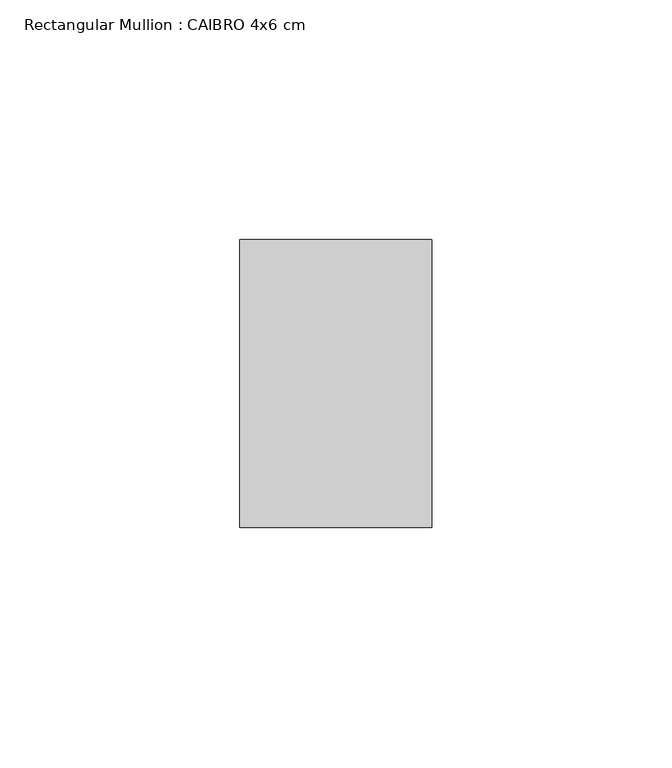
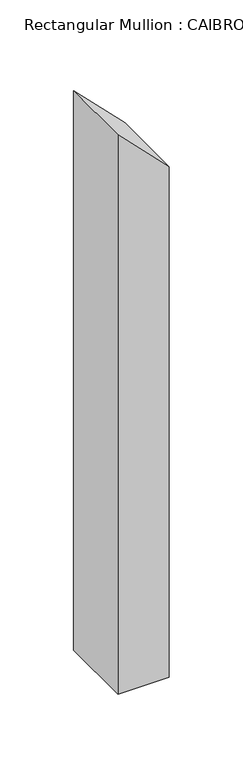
"""IFC4 building model written with IfcOpenShell, lengths in millimetres: member geometry, Rectangular Mullion : CAIBRO 4x6 cm."""

import ifcopenshell
import ifcopenshell.guid

model = None  # the IFC model being written
_history = None  # IfcOwnerHistory: only IFC2X3 demands one
_inside = {}  # id of a spatial element -> (the spatial element, [elements in it])
_under = {}  # id of a project, library or spatial element -> (it, [spatial elements below it])
_declared = {}  # id of a project -> (the project, [libraries it declares])
_typed = {}  # id of a type object -> (the type object, [elements of that type])
_made_of = {}  # id of a material, layer set ... -> (it, [elements and type objects made of it])


def new_model(schema):
    """Start an empty IFC model of exactly this schema.

    Asked for "IFC4X3", IfcOpenShell would pick the latest addendum, in which some entities
    have other attributes; the version numbers below select the first issue.
    IFC2X3 requires an IfcOwnerHistory on every rooted entity: one is made here for all.
    """
    global model, _history
    if schema == "IFC4X3":
        model = ifcopenshell.file(schema_version=(4, 3, 0, 0))
    else:
        model = ifcopenshell.file(schema=schema)
    _inside.clear()
    _under.clear()
    _declared.clear()
    _typed.clear()
    _made_of.clear()
    _history = None
    if model.schema == "IFC2X3":
        org = make("IfcOrganization", Name="unknown")
        user = make(
            "IfcPersonAndOrganization",
            ThePerson=make("IfcPerson", FamilyName="unknown"),
            TheOrganization=org,
        )
        app = make(
            "IfcApplication",
            ApplicationDeveloper=org,
            Version="unknown",
            ApplicationFullName="unknown",
            ApplicationIdentifier="unknown",
        )
        _history = make(
            "IfcOwnerHistory",
            OwningUser=user,
            OwningApplication=app,
            ChangeAction="ADDED",
            CreationDate=0,
        )
    return model


def make(cls, **values):
    """One entity of the class cls with the attributes given. An attribute that is None is left unset."""
    return model.create_entity(
        cls, **{name: value for name, value in values.items() if value is not None}
    )


def rooted(cls, **values):
    """An entity with a GlobalId (a new one), such as an element, a storey or a relation."""
    return make(cls, GlobalId=ifcopenshell.guid.new(), OwnerHistory=_history, **values)


def si_unit(unit_type, name, prefix=None):
    """IfcSIUnit, for example si_unit("LENGTHUNIT", "METRE", prefix="MILLI")."""
    return make("IfcSIUnit", UnitType=unit_type, Prefix=prefix, Name=name)


def assignment(units):
    """IfcUnitAssignment: the units of a project."""
    return None if units is None else make("IfcUnitAssignment", Units=units)


def point(xyz):
    """IfcCartesianPoint."""
    return None if xyz is None else make("IfcCartesianPoint", Coordinates=xyz)


def direction(xyz):
    """IfcDirection."""
    return None if xyz is None else make("IfcDirection", DirectionRatios=xyz)


def frame(location, z_axis=None, x_axis=None):
    """IfcAxis2Placement3D, a coordinate frame: its origin and axes. An axis left out is left unset."""
    return make(
        "IfcAxis2Placement3D",
        Location=point(location),
        Axis=direction(z_axis),
        RefDirection=direction(x_axis),
    )


def origin():
    """The frame at (0, 0, 0) with its axes left unset."""
    return frame((0.0, 0.0, 0.0))


def place(relative_to, where):
    """IfcLocalPlacement: puts the frame where relative to a parent placement (None: the world)."""
    return make(
        "IfcLocalPlacement", PlacementRelTo=relative_to, RelativePlacement=where
    )


def context(
    kind, dimensions, precision=None, world=None, true_north=None, identifier=None
):
    """IfcGeometricRepresentationContext, for example the 3D "Model" context."""
    return make(
        "IfcGeometricRepresentationContext",
        ContextIdentifier=identifier,
        ContextType=kind,
        CoordinateSpaceDimension=dimensions,
        Precision=precision,
        WorldCoordinateSystem=world,
        TrueNorth=true_north,
    )


def project(units=None, contexts=None):
    """IfcProject with its units and contexts."""
    return rooted(
        "IfcProject",
        Name="project",
        RepresentationContexts=contexts,
        UnitsInContext=assignment(units),
    )


def spatial(cls, under=None, at=None, **own):
    """A site, building, storey or space (cls), placed at a placement, below another one or the project."""
    s = rooted(cls, ObjectPlacement=at, **own)
    if under is not None:
        _under.setdefault(under.id(), (under, []))[1].append(s)
    return s


def polyline(points):
    """IfcPolyline through the points."""
    return make("IfcPolyline", Points=[point(p) for p in points])


def outline(outer, holes=None, kind="AREA"):
    """IfcArbitraryClosedProfileDef: a profile drawn as a closed curve; with holes, ...WithVoids."""
    if holes is None:
        return make("IfcArbitraryClosedProfileDef", ProfileType=kind, OuterCurve=outer)
    return make(
        "IfcArbitraryProfileDefWithVoids",
        ProfileType=kind,
        OuterCurve=outer,
        InnerCurves=holes,
    )


def extrude(swept, where, along, depth):
    """IfcExtrudedAreaSolid: the profile swept, set in the frame where, extruded along a direction by depth."""
    return make(
        "IfcExtrudedAreaSolid",
        SweptArea=swept,
        Position=where,
        ExtrudedDirection=direction(along),
        Depth=depth,
    )


def shape(context_of_items, identifier, shape_type, items):
    """IfcShapeRepresentation: the items that make up one representation, for example the "Body"."""
    return make(
        "IfcShapeRepresentation",
        ContextOfItems=context_of_items,
        RepresentationIdentifier=identifier,
        RepresentationType=shape_type,
        Items=items,
    )


def source(mapping_origin, context_of_items, identifier, shape_type, items):
    """IfcRepresentationMap: a shape defined once, which mapped items show again and again."""
    return make(
        "IfcRepresentationMap",
        MappingOrigin=mapping_origin,
        MappedRepresentation=shape(context_of_items, identifier, shape_type, items),
    )


def transform(
    local_origin,
    x_axis=None,
    y_axis=None,
    z_axis=None,
    scale=None,
    scale2=None,
    scale3=None,
    uniform=True,
):
    """IfcCartesianTransformationOperator3D, or its non-uniform kind. x_axis, y_axis, z_axis: its Axis1, 2, 3."""
    if uniform:
        return make(
            "IfcCartesianTransformationOperator3D",
            Axis1=direction(x_axis),
            Axis2=direction(y_axis),
            LocalOrigin=point(local_origin),
            Scale=scale,
            Axis3=direction(z_axis),
        )
    return make(
        "IfcCartesianTransformationOperator3DnonUniform",
        Axis1=direction(x_axis),
        Axis2=direction(y_axis),
        LocalOrigin=point(local_origin),
        Scale=scale,
        Axis3=direction(z_axis),
        Scale2=scale2,
        Scale3=scale3,
    )


def mapped(mapping_source, mapping_target):
    """IfcMappedItem: shows the shape of a source again, moved by a transform."""
    return make(
        "IfcMappedItem", MappingSource=mapping_source, MappingTarget=mapping_target
    )


def made_of(thing, what):
    """Note that an element or type object is made of a material, layer set ...; save() writes the relation."""
    if what is not None:
        _made_of.setdefault(what.id(), (what, []))[1].append(thing)
    return thing


def element(
    cls,
    number,
    at=None,
    inside=None,
    cuts=None,
    type_object=None,
    material=None,
    context=None,
    identifier="Body",
    shape_type=None,
    held_by="IfcProductDefinitionShape",
    body=None,
    shapes=None,
    **own,
):
    """One element of the class cls, such as IfcWall. Its Tag is "e" and its number.

    at: its placement. inside: the storey or other place that contains it. cuts: it is an
    opening in that element (IfcRelVoidsElement). A single representation is given by context,
    identifier, shape_type and body (its items); several are given by shapes. held_by: the class
    of the entity that holds the representations. save() writes the other relations.
    """
    e = rooted(cls, Tag="e%d" % number, ObjectPlacement=at, **own)
    if body is not None:
        shapes = [shape(context, identifier, shape_type, body)]
    if shapes is not None:
        e.Representation = make(held_by, Representations=shapes)
    if inside is not None:
        _inside.setdefault(inside.id(), (inside, []))[1].append(e)
    if cuts is not None:
        rooted(
            "IfcRelVoidsElement", RelatingBuildingElement=cuts, RelatedOpeningElement=e
        )
    if type_object is not None:
        _typed.setdefault(type_object.id(), (type_object, []))[1].append(e)
    return made_of(e, material)


def aggregate(whole, parts):
    """IfcRelAggregates: a whole, such as a stair, and the parts it consists of."""
    return rooted("IfcRelAggregates", RelatingObject=whole, RelatedObjects=parts)


def save(model, path):
    """Write the relations noted so far, then the file.

    IfcRelAggregates (storeys below a building ...), IfcRelContainedInSpatialStructure (elements
    in a storey), IfcRelDefinesByType, IfcRelAssociatesMaterial and IfcRelDeclares: one each for
    every whole, place, type object, material and project.
    """
    for whole, parts in _under.values():
        aggregate(whole, parts)
    for where, things in _inside.values():
        rooted(
            "IfcRelContainedInSpatialStructure",
            RelatedElements=things,
            RelatingStructure=where,
        )
    for kind, things in _typed.values():
        rooted("IfcRelDefinesByType", RelatedObjects=things, RelatingType=kind)
    for what, things in _made_of.values():
        rooted("IfcRelAssociatesMaterial", RelatedObjects=things, RelatingMaterial=what)
    for by, libraries in _declared.values():
        rooted("IfcRelDeclares", RelatingContext=by, RelatedDefinitions=libraries)
    model.write(path)


def rectangular_mullion_caibro_4x6_cm_3dae7f36(model_context):
    return source(origin(), model_context, "Body", "SweptSolid", [
        extrude(outline(polyline([(-77.109599, 20.0), (-36.6621022, -20.0), (-498.3949162, -20.0), (-498.3949162, 20.0), (-77.109599, 20.0)])), frame((0.0, 0.0, 0.0), z_axis=(0.0, 1.0, 0.0), x_axis=(0.0, 0.0, 1.0)), (0.0, 0.0, 1.0), 60.0),
    ])


if __name__ == "__main__":
    model = new_model("IFC4")
    model_context = context("Model", 3, world=origin())
    ifc_project = project(units=[si_unit("LENGTHUNIT", "METRE", prefix="MILLI")], contexts=[model_context])
    site = spatial("IfcSite", under=ifc_project)
    building = spatial("IfcBuilding", under=site)
    placement = place(None, origin())
    rectangular_mullion_caibro_4x6_cm_shape = rectangular_mullion_caibro_4x6_cm_3dae7f36(model_context)
    element("IfcMember", 1, ObjectType="Rectangular Mullion : CAIBRO 4x6 cm", at=placement, inside=building, context=model_context, shape_type="MappedRepresentation", body=[
        mapped(rectangular_mullion_caibro_4x6_cm_shape, transform((0.0, 0.0, 0.0), x_axis=(1.0, 0.0, 0.0), y_axis=(0.0, 1.0, 0.0), z_axis=(0.0, 0.0, 1.0))),
    ])
    save(model, "model.ifc")
